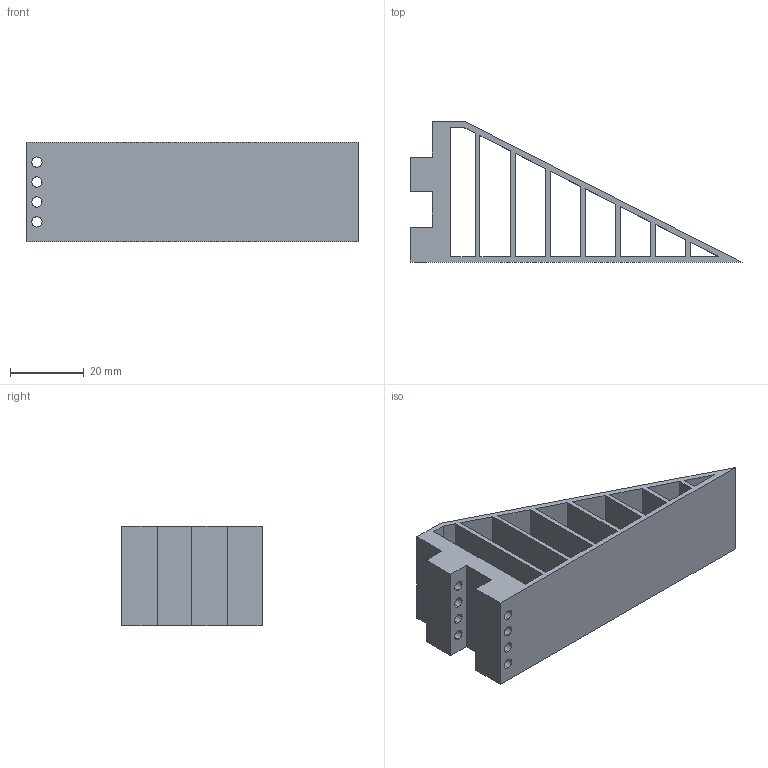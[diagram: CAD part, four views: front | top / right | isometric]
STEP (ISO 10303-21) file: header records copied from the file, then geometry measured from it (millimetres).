
FILE_DESCRIPTION (( 'STEP AP214' ), '1' );
FILE_NAME ('Gripper_flex_1.STEP', '2020-08-29T13:00:42', ( '' ), ( '' ), 'SwSTEP 2.0', 'SolidWorks 2020', '' );
FILE_SCHEMA (( 'AUTOMOTIVE_DESIGN' ));
Length unit declared in the file: millimetre
Products named in the file (1): Gripper_flex_1
Bounding box: 89.95 x 38 x 27 mm (x, y, z)
Volume: 18444.3 mm3; surface area: 20083.5 mm2
Topology: 1 solids, 1 shells, 60 faces, 174 edges, 116 vertices
Faces by surface type: plane 44, cylinder 16
Entity records: 2123 total; most frequent: CARTESIAN_POINT 351, ORIENTED_EDGE 348, DIRECTION 328, EDGE_CURVE 174, VECTOR 142, LINE 142, VERTEX_POINT 116, AXIS2_PLACEMENT_3D 93
